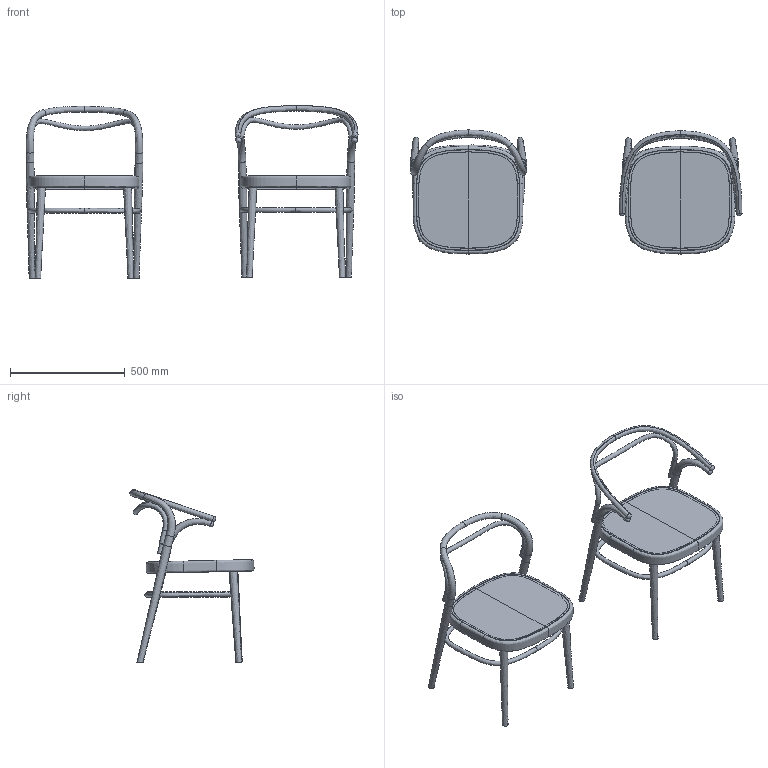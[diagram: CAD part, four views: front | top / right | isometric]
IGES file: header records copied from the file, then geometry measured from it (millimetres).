
Global section: file name: D:\modelli 3d x sito 2021\Beaulieu\Beaulieu.igs; native system: Rhinoceros ( Feb  3 2021 ); preprocessor: Trout Lake IGES 012 Feb  3 2021; date: 210419.083627; units: millimetre
Bounding box: 1449.51 x 541.62 x 755.07 mm (x, y, z)
Surface area: 1981909.7 mm2 (no closed solid volume)
Topology: 0 solids, 0 shells, 149 faces, 1974 edges, 1934 vertices
Faces by surface type: bspline 149
